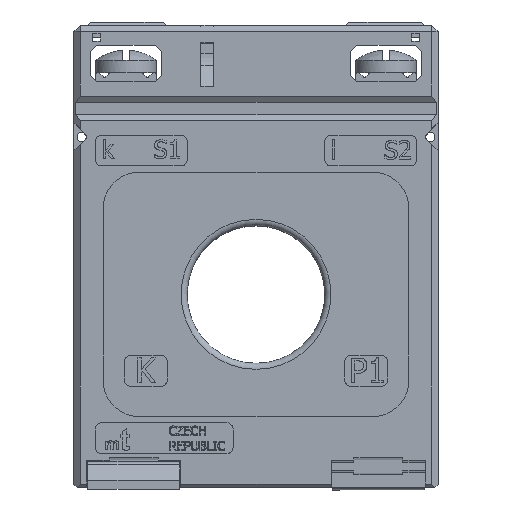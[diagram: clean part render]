
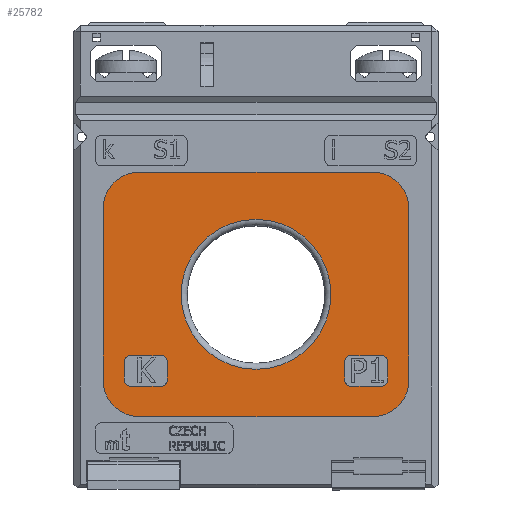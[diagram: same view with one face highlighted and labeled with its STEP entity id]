
A CAD part, top view. The second image highlights one B-rep face of the part: STEP entity #25782.
In plain terms, the highlighted planar face has unit normal (0, 0, 1) as drawn and (0, 0, -1) by its records, which use the part's own axes.
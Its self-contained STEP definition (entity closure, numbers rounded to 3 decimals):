
#1539=FACE_BOUND('',#9725,.T.);
#1540=FACE_BOUND('',#9726,.T.);
#1541=FACE_BOUND('',#9727,.T.);
#1655=LINE('',#34057,#4533);
#1656=LINE('',#34061,#4534);
#1657=LINE('',#34065,#4535);
#1658=LINE('',#34069,#4536);
#1659=LINE('',#34075,#4537);
#1660=LINE('',#34079,#4538);
#1661=LINE('',#34083,#4539);
#1662=LINE('',#34086,#4540);
#1663=LINE('',#34089,#4541);
#1664=LINE('',#34093,#4542);
#1665=LINE('',#34097,#4543);
#1666=LINE('',#34101,#4544);
#4533=VECTOR('',#28666,10.);
#4534=VECTOR('',#28669,10.);
#4535=VECTOR('',#28672,10.);
#4536=VECTOR('',#28675,10.);
#4537=VECTOR('',#28680,10.);
#4538=VECTOR('',#28683,10.);
#4539=VECTOR('',#28686,10.);
#4540=VECTOR('',#28689,10.);
#4541=VECTOR('',#28690,10.);
#4542=VECTOR('',#28693,10.);
#4543=VECTOR('',#28696,10.);
#4544=VECTOR('',#28699,10.);
#7411=PLANE('',#27400);
#8319=FACE_OUTER_BOUND('',#9724,.T.);
#9724=EDGE_LOOP('',(#17971,#17972,#17973,#17974,#17975,#17976,#17977,#17978));
#9725=EDGE_LOOP('',(#17979,#17980,#17981,#17982,#17983,#17984,#17985,#17986));
#9726=EDGE_LOOP('',(#17987,#17988,#17989,#17990,#17991,#17992,#17993,#17994));
#9727=EDGE_LOOP('',(#17995));
#11246=CIRCLE('',#27399,12.25);
#11247=CIRCLE('',#27401,6.);
#11248=CIRCLE('',#27402,6.);
#11249=CIRCLE('',#27403,6.);
#11250=CIRCLE('',#27404,6.);
#11251=CIRCLE('',#27405,1.);
#11252=CIRCLE('',#27406,1.);
#11253=CIRCLE('',#27407,1.);
#11254=CIRCLE('',#27408,1.);
#11255=CIRCLE('',#27409,1.);
#11256=CIRCLE('',#27410,1.);
#11257=CIRCLE('',#27411,1.);
#11258=CIRCLE('',#27412,1.);
#11471=VERTEX_POINT('',#34051);
#11472=VERTEX_POINT('',#34055);
#11473=VERTEX_POINT('',#34056);
#11474=VERTEX_POINT('',#34058);
#11475=VERTEX_POINT('',#34060);
#11476=VERTEX_POINT('',#34062);
#11477=VERTEX_POINT('',#34064);
#11478=VERTEX_POINT('',#34066);
#11479=VERTEX_POINT('',#34068);
#11480=VERTEX_POINT('',#34071);
#11481=VERTEX_POINT('',#34072);
#11482=VERTEX_POINT('',#34074);
#11483=VERTEX_POINT('',#34076);
#11484=VERTEX_POINT('',#34078);
#11485=VERTEX_POINT('',#34080);
#11486=VERTEX_POINT('',#34082);
#11487=VERTEX_POINT('',#34084);
#11488=VERTEX_POINT('',#34087);
#11489=VERTEX_POINT('',#34088);
#11490=VERTEX_POINT('',#34090);
#11491=VERTEX_POINT('',#34092);
#11492=VERTEX_POINT('',#34094);
#11493=VERTEX_POINT('',#34096);
#11494=VERTEX_POINT('',#34098);
#11495=VERTEX_POINT('',#34100);
#14063=EDGE_CURVE('',#11471,#11471,#11246,.T.);
#14064=EDGE_CURVE('',#11472,#11473,#1655,.T.);
#14065=EDGE_CURVE('',#11474,#11472,#11247,.T.);
#14066=EDGE_CURVE('',#11475,#11474,#1656,.T.);
#14067=EDGE_CURVE('',#11476,#11475,#11248,.T.);
#14068=EDGE_CURVE('',#11477,#11476,#1657,.T.);
#14069=EDGE_CURVE('',#11478,#11477,#11249,.T.);
#14070=EDGE_CURVE('',#11479,#11478,#1658,.T.);
#14071=EDGE_CURVE('',#11473,#11479,#11250,.T.);
#14072=EDGE_CURVE('',#11480,#11481,#11251,.T.);
#14073=EDGE_CURVE('',#11481,#11482,#1659,.T.);
#14074=EDGE_CURVE('',#11482,#11483,#11252,.T.);
#14075=EDGE_CURVE('',#11483,#11484,#1660,.T.);
#14076=EDGE_CURVE('',#11484,#11485,#11253,.T.);
#14077=EDGE_CURVE('',#11485,#11486,#1661,.T.);
#14078=EDGE_CURVE('',#11486,#11487,#11254,.T.);
#14079=EDGE_CURVE('',#11487,#11480,#1662,.T.);
#14080=EDGE_CURVE('',#11488,#11489,#1663,.T.);
#14081=EDGE_CURVE('',#11489,#11490,#11255,.T.);
#14082=EDGE_CURVE('',#11490,#11491,#1664,.T.);
#14083=EDGE_CURVE('',#11491,#11492,#11256,.T.);
#14084=EDGE_CURVE('',#11492,#11493,#1665,.T.);
#14085=EDGE_CURVE('',#11493,#11494,#11257,.T.);
#14086=EDGE_CURVE('',#11494,#11495,#1666,.T.);
#14087=EDGE_CURVE('',#11495,#11488,#11258,.T.);
#17971=ORIENTED_EDGE('',*,*,#14064,.F.);
#17972=ORIENTED_EDGE('',*,*,#14065,.F.);
#17973=ORIENTED_EDGE('',*,*,#14066,.F.);
#17974=ORIENTED_EDGE('',*,*,#14067,.F.);
#17975=ORIENTED_EDGE('',*,*,#14068,.F.);
#17976=ORIENTED_EDGE('',*,*,#14069,.F.);
#17977=ORIENTED_EDGE('',*,*,#14070,.F.);
#17978=ORIENTED_EDGE('',*,*,#14071,.F.);
#17979=ORIENTED_EDGE('',*,*,#14072,.T.);
#17980=ORIENTED_EDGE('',*,*,#14073,.T.);
#17981=ORIENTED_EDGE('',*,*,#14074,.T.);
#17982=ORIENTED_EDGE('',*,*,#14075,.T.);
#17983=ORIENTED_EDGE('',*,*,#14076,.T.);
#17984=ORIENTED_EDGE('',*,*,#14077,.T.);
#17985=ORIENTED_EDGE('',*,*,#14078,.T.);
#17986=ORIENTED_EDGE('',*,*,#14079,.T.);
#17987=ORIENTED_EDGE('',*,*,#14080,.T.);
#17988=ORIENTED_EDGE('',*,*,#14081,.T.);
#17989=ORIENTED_EDGE('',*,*,#14082,.T.);
#17990=ORIENTED_EDGE('',*,*,#14083,.T.);
#17991=ORIENTED_EDGE('',*,*,#14084,.T.);
#17992=ORIENTED_EDGE('',*,*,#14085,.T.);
#17993=ORIENTED_EDGE('',*,*,#14086,.T.);
#17994=ORIENTED_EDGE('',*,*,#14087,.T.);
#17995=ORIENTED_EDGE('',*,*,#14063,.F.);
#25782=ADVANCED_FACE('',(#8319,#1539,#1540,#1541),#7411,.T.);
#27399=AXIS2_PLACEMENT_3D('',#34053,#28662,#28663);
#27400=AXIS2_PLACEMENT_3D('',#34054,#28664,#28665);
#27401=AXIS2_PLACEMENT_3D('',#34059,#28667,#28668);
#27402=AXIS2_PLACEMENT_3D('',#34063,#28670,#28671);
#27403=AXIS2_PLACEMENT_3D('',#34067,#28673,#28674);
#27404=AXIS2_PLACEMENT_3D('',#34070,#28676,#28677);
#27405=AXIS2_PLACEMENT_3D('',#34073,#28678,#28679);
#27406=AXIS2_PLACEMENT_3D('',#34077,#28681,#28682);
#27407=AXIS2_PLACEMENT_3D('',#34081,#28684,#28685);
#27408=AXIS2_PLACEMENT_3D('',#34085,#28687,#28688);
#27409=AXIS2_PLACEMENT_3D('',#34091,#28691,#28692);
#27410=AXIS2_PLACEMENT_3D('',#34095,#28694,#28695);
#27411=AXIS2_PLACEMENT_3D('',#34099,#28697,#28698);
#27412=AXIS2_PLACEMENT_3D('',#34102,#28700,#28701);
#28662=DIRECTION('center_axis',(0.,0.,-1.));
#28663=DIRECTION('ref_axis',(-1.,0.,0.));
#28664=DIRECTION('center_axis',(0.,0.,-1.));
#28665=DIRECTION('ref_axis',(-1.,0.,0.));
#28666=DIRECTION('',(1.,0.,0.));
#28667=DIRECTION('center_axis',(0.,0.,1.));
#28668=DIRECTION('ref_axis',(0.,-1.,0.));
#28669=DIRECTION('',(0.,-1.,0.));
#28670=DIRECTION('center_axis',(0.,0.,1.));
#28671=DIRECTION('ref_axis',(-1.,0.,0.));
#28672=DIRECTION('',(-1.,0.,0.));
#28673=DIRECTION('center_axis',(0.,0.,1.));
#28674=DIRECTION('ref_axis',(0.,1.,0.));
#28675=DIRECTION('',(0.,1.,0.));
#28676=DIRECTION('center_axis',(0.,0.,1.));
#28677=DIRECTION('ref_axis',(1.,0.,0.));
#28678=DIRECTION('center_axis',(0.,0.,1.));
#28679=DIRECTION('ref_axis',(-1.,0.,0.));
#28680=DIRECTION('',(0.,-1.,0.));
#28681=DIRECTION('center_axis',(0.,0.,1.));
#28682=DIRECTION('ref_axis',(0.,-1.,0.));
#28683=DIRECTION('',(1.,0.,0.));
#28684=DIRECTION('center_axis',(0.,0.,1.));
#28685=DIRECTION('ref_axis',(1.,0.,0.));
#28686=DIRECTION('',(0.,1.,0.));
#28687=DIRECTION('center_axis',(0.,0.,1.));
#28688=DIRECTION('ref_axis',(0.,1.,0.));
#28689=DIRECTION('',(-1.,0.,0.));
#28690=DIRECTION('',(0.,-1.,0.));
#28691=DIRECTION('center_axis',(0.,0.,1.));
#28692=DIRECTION('ref_axis',(0.,-1.,0.));
#28693=DIRECTION('',(1.,0.,0.));
#28694=DIRECTION('center_axis',(0.,0.,1.));
#28695=DIRECTION('ref_axis',(1.,0.,0.));
#28696=DIRECTION('',(0.,1.,0.));
#28697=DIRECTION('center_axis',(0.,0.,1.));
#28698=DIRECTION('ref_axis',(0.,1.,0.));
#28699=DIRECTION('',(-1.,0.,0.));
#28700=DIRECTION('center_axis',(0.,0.,1.));
#28701=DIRECTION('ref_axis',(-1.,0.,0.));
#34051=CARTESIAN_POINT('',(12.25,31.5,0.1));
#34053=CARTESIAN_POINT('Origin',(0.,31.5,0.1));
#34054=CARTESIAN_POINT('Origin',(0.,31.5,0.1));
#34055=CARTESIAN_POINT('',(-19.,11.5,0.1));
#34056=CARTESIAN_POINT('',(19.,11.5,0.1));
#34057=CARTESIAN_POINT('',(19.,11.5,0.1));
#34058=CARTESIAN_POINT('',(-25.,17.5,0.1));
#34059=CARTESIAN_POINT('Origin',(-19.,17.5,0.1));
#34060=CARTESIAN_POINT('',(-25.,45.5,0.1));
#34061=CARTESIAN_POINT('',(-25.,17.5,0.1));
#34062=CARTESIAN_POINT('',(-19.,51.5,0.1));
#34063=CARTESIAN_POINT('Origin',(-19.,45.5,0.1));
#34064=CARTESIAN_POINT('',(19.,51.5,0.1));
#34065=CARTESIAN_POINT('',(-19.,51.5,0.1));
#34066=CARTESIAN_POINT('',(25.,45.5,0.1));
#34067=CARTESIAN_POINT('Origin',(19.,45.5,0.1));
#34068=CARTESIAN_POINT('',(25.,17.5,0.1));
#34069=CARTESIAN_POINT('',(25.,45.5,0.1));
#34070=CARTESIAN_POINT('Origin',(19.,17.5,0.1));
#34071=CARTESIAN_POINT('',(-20.5,21.5,0.1));
#34072=CARTESIAN_POINT('',(-21.5,20.5,0.1));
#34073=CARTESIAN_POINT('Origin',(-20.5,20.5,0.1));
#34074=CARTESIAN_POINT('',(-21.5,17.5,0.1));
#34075=CARTESIAN_POINT('',(-21.5,26.,0.1));
#34076=CARTESIAN_POINT('',(-20.5,16.5,0.1));
#34077=CARTESIAN_POINT('Origin',(-20.5,17.5,0.1));
#34078=CARTESIAN_POINT('',(-15.5,16.5,0.1));
#34079=CARTESIAN_POINT('',(-10.25,16.5,0.1));
#34080=CARTESIAN_POINT('',(-14.5,17.5,0.1));
#34081=CARTESIAN_POINT('Origin',(-15.5,17.5,0.1));
#34082=CARTESIAN_POINT('',(-14.5,20.5,0.1));
#34083=CARTESIAN_POINT('',(-14.5,24.5,0.1));
#34084=CARTESIAN_POINT('',(-15.5,21.5,0.1));
#34085=CARTESIAN_POINT('Origin',(-15.5,20.5,0.1));
#34086=CARTESIAN_POINT('',(-7.75,21.5,0.1));
#34087=CARTESIAN_POINT('',(14.5,20.5,0.1));
#34088=CARTESIAN_POINT('',(14.5,17.5,0.1));
#34089=CARTESIAN_POINT('',(14.5,26.,0.1));
#34090=CARTESIAN_POINT('',(15.5,16.5,0.1));
#34091=CARTESIAN_POINT('Origin',(15.5,17.5,0.1));
#34092=CARTESIAN_POINT('',(20.5,16.5,0.1));
#34093=CARTESIAN_POINT('',(7.75,16.5,0.1));
#34094=CARTESIAN_POINT('',(21.5,17.5,0.1));
#34095=CARTESIAN_POINT('Origin',(20.5,17.5,0.1));
#34096=CARTESIAN_POINT('',(21.5,20.5,0.1));
#34097=CARTESIAN_POINT('',(21.5,24.5,0.1));
#34098=CARTESIAN_POINT('',(20.5,21.5,0.1));
#34099=CARTESIAN_POINT('Origin',(20.5,20.5,0.1));
#34100=CARTESIAN_POINT('',(15.5,21.5,0.1));
#34101=CARTESIAN_POINT('',(10.25,21.5,0.1));
#34102=CARTESIAN_POINT('Origin',(15.5,20.5,0.1));
